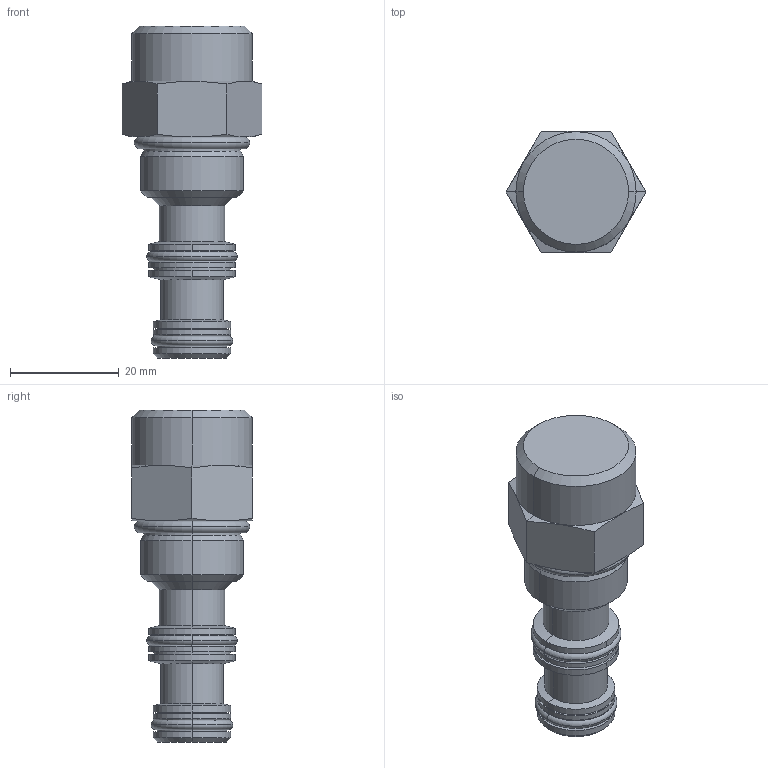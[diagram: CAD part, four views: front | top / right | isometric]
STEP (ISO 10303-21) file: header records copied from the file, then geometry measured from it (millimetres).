
FILE_DESCRIPTION((''),'2;1');
FILE_NAME('FR08-30F','2014-04-10T',('mg1'),(''),'PRO/ENGINEER BY PARAMETRIC TECHNOLOGY CORPORATION, 2013230','PRO/ENGINEER BY PARAMETRIC TECHNOLOGY CORPORATION, 2013230','');
FILE_SCHEMA(('CONFIG_CONTROL_DESIGN'));
Length unit declared in the file: millimetre
Products named in the file (1): FR08-30F
Bounding box: 25.66 x 22.23 x 60.99 mm (x, y, z)
Volume: 15482.8 mm3; surface area: 4929.4 mm2
Topology: 1 solids, 1 shells, 108 faces, 232 edges, 134 vertices
Faces by surface type: cylinder 36, torus 28, cone 24, plane 16, revolution 4
Entity records: 3078 total; most frequent: CARTESIAN_POINT 628, DIRECTION 572, ORIENTED_EDGE 464, AXIS2_PLACEMENT_3D 254, EDGE_CURVE 232, CIRCLE 150, VERTEX_POINT 134, EDGE_LOOP 116
